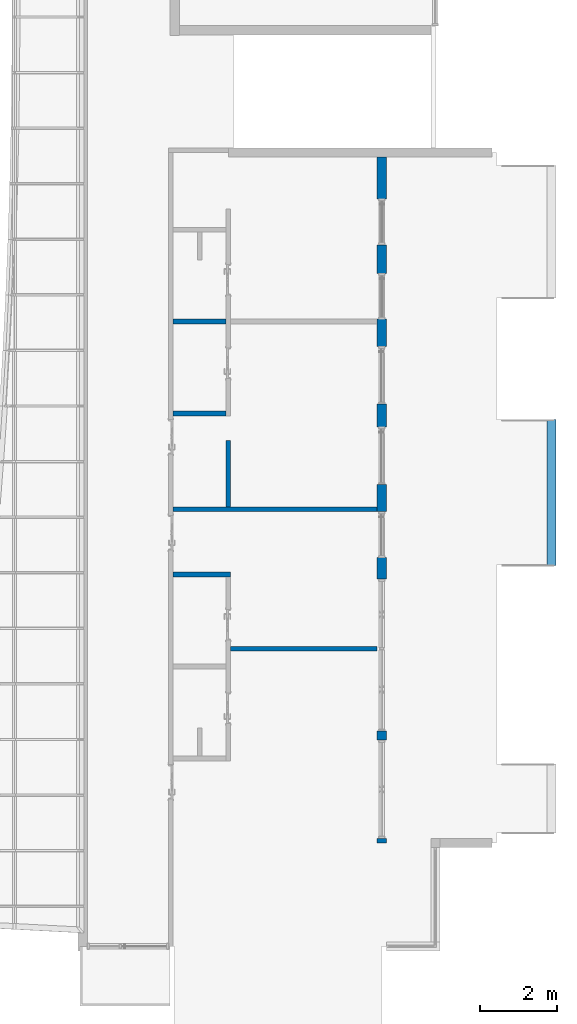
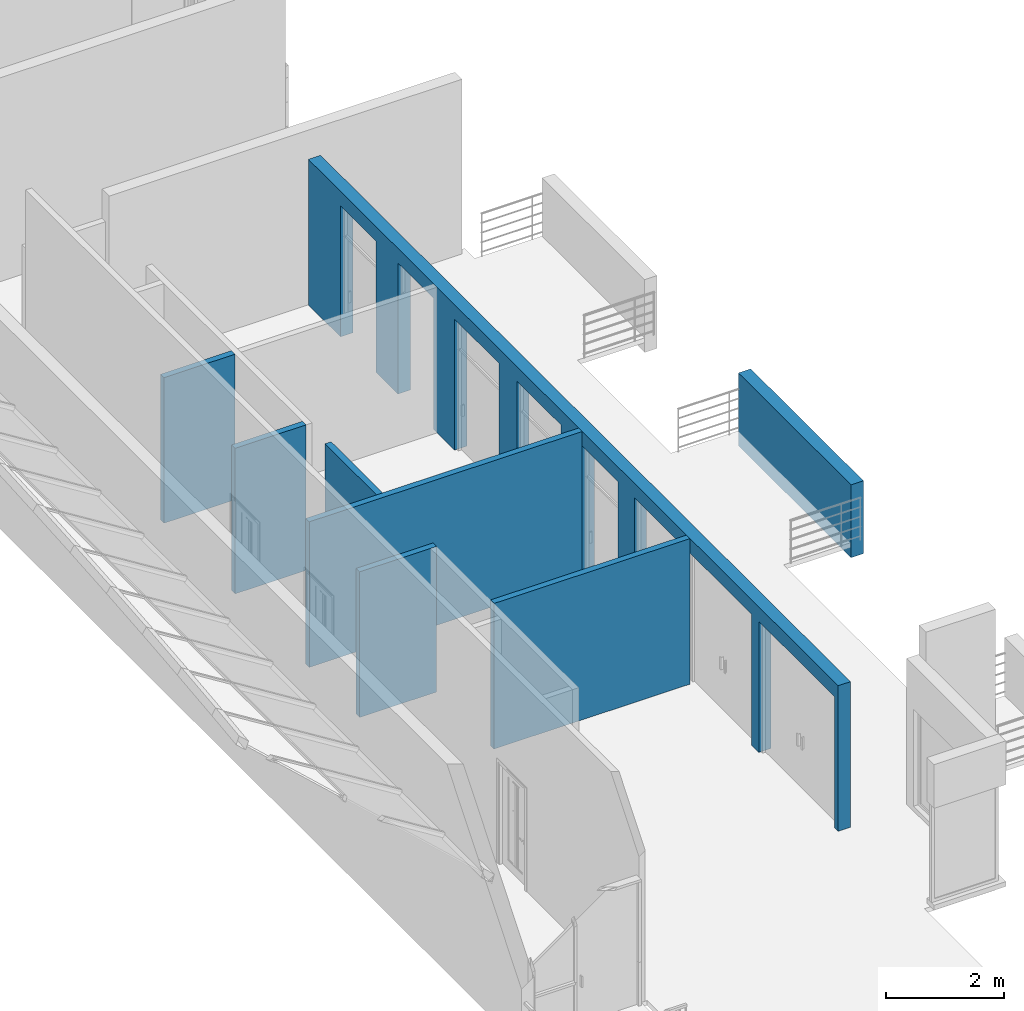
# One storey, part 22 of 33: 8 walls, 7 openings.
"""IFC2X3 building model written with IfcOpenShell, lengths in millimetres."""

import ifcopenshell
import ifcopenshell.guid

model = None  # the IFC model being written
_history = None  # IfcOwnerHistory: only IFC2X3 demands one
_inside = {}  # id of a spatial element -> (the spatial element, [elements in it])
_under = {}  # id of a project, library or spatial element -> (it, [spatial elements below it])
_declared = {}  # id of a project -> (the project, [libraries it declares])
_typed = {}  # id of a type object -> (the type object, [elements of that type])
_made_of = {}  # id of a material, layer set ... -> (it, [elements and type objects made of it])


def new_model(schema):
    """Start an empty IFC model of exactly this schema.

    Asked for "IFC4X3", IfcOpenShell would pick the latest addendum, in which some entities
    have other attributes; the version numbers below select the first issue.
    IFC2X3 requires an IfcOwnerHistory on every rooted entity: one is made here for all.
    """
    global model, _history
    if schema == "IFC4X3":
        model = ifcopenshell.file(schema_version=(4, 3, 0, 0))
    else:
        model = ifcopenshell.file(schema=schema)
    _inside.clear()
    _under.clear()
    _declared.clear()
    _typed.clear()
    _made_of.clear()
    _history = None
    if model.schema == "IFC2X3":
        org = make("IfcOrganization", Name="unknown")
        user = make(
            "IfcPersonAndOrganization",
            ThePerson=make("IfcPerson", FamilyName="unknown"),
            TheOrganization=org,
        )
        app = make(
            "IfcApplication",
            ApplicationDeveloper=org,
            Version="unknown",
            ApplicationFullName="unknown",
            ApplicationIdentifier="unknown",
        )
        _history = make(
            "IfcOwnerHistory",
            OwningUser=user,
            OwningApplication=app,
            ChangeAction="ADDED",
            CreationDate=0,
        )
    return model


def make(cls, **values):
    """One entity of the class cls with the attributes given. An attribute that is None is left unset."""
    return model.create_entity(
        cls, **{name: value for name, value in values.items() if value is not None}
    )


def entity(cls, *values):
    """Any entity or typed value of the class cls, its attributes in the order of the schema. None: left unset."""
    e = model.create_entity(cls)
    for i, value in enumerate(values):
        if value is not None:
            e[i] = value
    return e


def rooted(cls, **values):
    """An entity with a GlobalId (a new one), such as an element, a storey or a relation."""
    return make(cls, GlobalId=ifcopenshell.guid.new(), OwnerHistory=_history, **values)


def si_unit(unit_type, name, prefix=None):
    """IfcSIUnit, for example si_unit("LENGTHUNIT", "METRE", prefix="MILLI")."""
    return make("IfcSIUnit", UnitType=unit_type, Prefix=prefix, Name=name)


def converted_unit(unit_type, name, factor, base, dimensions=None, offset=None):
    """IfcConversionBasedUnit, such as the inch: factor (a typed value) times the base unit."""
    return make(
        "IfcConversionBasedUnit"
        if offset is None
        else "IfcConversionBasedUnitWithOffset",
        ConversionOffset=offset,
        Dimensions=None
        if dimensions is None
        else entity("IfcDimensionalExponents", *dimensions),
        UnitType=unit_type,
        Name=name,
        ConversionFactor=make(
            "IfcMeasureWithUnit", ValueComponent=factor, UnitComponent=base
        ),
    )


def derived_unit(unit_type, elements):
    """IfcDerivedUnit: a product of units, each with its exponent."""
    return make(
        "IfcDerivedUnit",
        Elements=[
            make("IfcDerivedUnitElement", Unit=unit, Exponent=power)
            for unit, power in elements
        ],
        UnitType=unit_type,
    )


def assignment(units):
    """IfcUnitAssignment: the units of a project."""
    return None if units is None else make("IfcUnitAssignment", Units=units)


def point(xyz):
    """IfcCartesianPoint."""
    return None if xyz is None else make("IfcCartesianPoint", Coordinates=xyz)


def direction(xyz):
    """IfcDirection."""
    return None if xyz is None else make("IfcDirection", DirectionRatios=xyz)


def frame(location, z_axis=None, x_axis=None):
    """IfcAxis2Placement3D, a coordinate frame: its origin and axes. An axis left out is left unset."""
    return make(
        "IfcAxis2Placement3D",
        Location=point(location),
        Axis=direction(z_axis),
        RefDirection=direction(x_axis),
    )


def frame_2d(location, x_axis=None):
    """IfcAxis2Placement2D, a coordinate frame in the plane: its origin and x axis."""
    return make(
        "IfcAxis2Placement2D", Location=point(location), RefDirection=direction(x_axis)
    )


def origin():
    """The frame at (0, 0, 0) with its axes left unset."""
    return frame((0.0, 0.0, 0.0))


def place(relative_to, where):
    """IfcLocalPlacement: puts the frame where relative to a parent placement (None: the world)."""
    return make(
        "IfcLocalPlacement", PlacementRelTo=relative_to, RelativePlacement=where
    )


def context(
    kind, dimensions, precision=None, world=None, true_north=None, identifier=None
):
    """IfcGeometricRepresentationContext, for example the 3D "Model" context."""
    return make(
        "IfcGeometricRepresentationContext",
        ContextIdentifier=identifier,
        ContextType=kind,
        CoordinateSpaceDimension=dimensions,
        Precision=precision,
        WorldCoordinateSystem=world,
        TrueNorth=true_north,
    )


def subcontext(parent, identifier, kind, view, scale=None):
    """IfcGeometricRepresentationSubContext, for example "Body" below "Model"."""
    return make(
        "IfcGeometricRepresentationSubContext",
        ContextIdentifier=identifier,
        ContextType=kind,
        ParentContext=parent,
        TargetScale=scale,
        TargetView=view,
    )


def project(units=None, contexts=None):
    """IfcProject with its units and contexts."""
    return rooted(
        "IfcProject",
        Name="project",
        RepresentationContexts=contexts,
        UnitsInContext=assignment(units),
    )


def spatial(cls, under=None, at=None, **own):
    """A site, building, storey or space (cls), placed at a placement, below another one or the project."""
    s = rooted(cls, ObjectPlacement=at, **own)
    if under is not None:
        _under.setdefault(under.id(), (under, []))[1].append(s)
    return s


def profile(cls, at=None, kind="AREA", **sizes):
    """A parametric profile (cls). Its sizes go by their IFC names, for example OverallWidth=200.0."""
    return make(cls, ProfileType=kind, Position=at, **sizes)


def rectangle(**sizes):
    """IfcRectangleProfileDef."""
    return profile("IfcRectangleProfileDef", **sizes)


def extrude(swept, where, along, depth):
    """IfcExtrudedAreaSolid: the profile swept, set in the frame where, extruded along a direction by depth."""
    return make(
        "IfcExtrudedAreaSolid",
        SweptArea=swept,
        Position=where,
        ExtrudedDirection=direction(along),
        Depth=depth,
    )


def shape(context_of_items, identifier, shape_type, items):
    """IfcShapeRepresentation: the items that make up one representation, for example the "Body"."""
    return make(
        "IfcShapeRepresentation",
        ContextOfItems=context_of_items,
        RepresentationIdentifier=identifier,
        RepresentationType=shape_type,
        Items=items,
    )


def material(Name=None, Category=None):
    """IfcMaterial."""
    return make("IfcMaterial", Name=Name, Category=Category)


def layer(
    of_material, thickness, ventilated=None, Name=None, Category=None, Priority=None
):
    """IfcMaterialLayer: one layer of a wall or slab, of a material (None: an air gap)."""
    return make(
        "IfcMaterialLayer",
        Material=of_material,
        LayerThickness=thickness,
        IsVentilated=ventilated,
        Name=Name,
        Category=Category,
        Priority=Priority,
    )


def layer_set(layers, Name=None):
    """IfcMaterialLayerSet."""
    return make("IfcMaterialLayerSet", MaterialLayers=layers, LayerSetName=Name)


def layer_usage(for_layer_set, set_direction, sense, offset, extent=None):
    """IfcMaterialLayerSetUsage: how a layer set lies in its element."""
    return make(
        "IfcMaterialLayerSetUsage",
        ForLayerSet=for_layer_set,
        LayerSetDirection=set_direction,
        DirectionSense=sense,
        OffsetFromReferenceLine=offset,
        ReferenceExtent=extent,
    )


def made_of(thing, what):
    """Note that an element or type object is made of a material, layer set ...; save() writes the relation."""
    if what is not None:
        _made_of.setdefault(what.id(), (what, []))[1].append(thing)
    return thing


def type_object(cls, material=None, **own):
    """A type object (cls), such as IfcWallType, which elements share."""
    return made_of(rooted(cls, **own), material)


def element(
    cls,
    number,
    at=None,
    inside=None,
    cuts=None,
    type_object=None,
    material=None,
    context=None,
    identifier="Body",
    shape_type=None,
    held_by="IfcProductDefinitionShape",
    body=None,
    shapes=None,
    **own,
):
    """One element of the class cls, such as IfcWall. Its Tag is "e" and its number.

    at: its placement. inside: the storey or other place that contains it. cuts: it is an
    opening in that element (IfcRelVoidsElement). A single representation is given by context,
    identifier, shape_type and body (its items); several are given by shapes. held_by: the class
    of the entity that holds the representations. save() writes the other relations.
    """
    e = rooted(cls, Tag="e%d" % number, ObjectPlacement=at, **own)
    if body is not None:
        shapes = [shape(context, identifier, shape_type, body)]
    if shapes is not None:
        e.Representation = make(held_by, Representations=shapes)
    if inside is not None:
        _inside.setdefault(inside.id(), (inside, []))[1].append(e)
    if cuts is not None:
        rooted(
            "IfcRelVoidsElement", RelatingBuildingElement=cuts, RelatedOpeningElement=e
        )
    if type_object is not None:
        _typed.setdefault(type_object.id(), (type_object, []))[1].append(e)
    return made_of(e, material)


def aggregate(whole, parts):
    """IfcRelAggregates: a whole, such as a stair, and the parts it consists of."""
    return rooted("IfcRelAggregates", RelatingObject=whole, RelatedObjects=parts)


def save(model, path):
    """Write the relations noted so far, then the file.

    IfcRelAggregates (storeys below a building ...), IfcRelContainedInSpatialStructure (elements
    in a storey), IfcRelDefinesByType, IfcRelAssociatesMaterial and IfcRelDeclares: one each for
    every whole, place, type object, material and project.
    """
    for whole, parts in _under.values():
        aggregate(whole, parts)
    for where, things in _inside.values():
        rooted(
            "IfcRelContainedInSpatialStructure",
            RelatedElements=things,
            RelatingStructure=where,
        )
    for kind, things in _typed.values():
        rooted("IfcRelDefinesByType", RelatedObjects=things, RelatingType=kind)
    for what, things in _made_of.values():
        rooted("IfcRelAssociatesMaterial", RelatedObjects=things, RelatingMaterial=what)
    for by, libraries in _declared.values():
        rooted("IfcRelDeclares", RelatingContext=by, RelatedDefinitions=libraries)
    model.write(path)


model = new_model("IFC2X3")

# Units and contexts
model_context = context("Model", 3, precision=0.01, world=origin(), true_north=direction((6.12303176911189e-17, 1.0)))
body_context = subcontext(model_context, "Body", "Model", "MODEL_VIEW")
ifc_project = project(units=[si_unit("LENGTHUNIT", "METRE", prefix="MILLI"), si_unit("AREAUNIT", "SQUARE_METRE"), si_unit("VOLUMEUNIT", "CUBIC_METRE"), converted_unit("PLANEANGLEUNIT", "DEGREE", entity("IfcRatioMeasure", 0.0174532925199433), si_unit("PLANEANGLEUNIT", "RADIAN"), dimensions=[0, 0, 0, 0, 0, 0, 0]), si_unit("MASSUNIT", "GRAM", prefix="KILO"), derived_unit("MASSDENSITYUNIT", [(si_unit("MASSUNIT", "GRAM", prefix="KILO"), 1), (si_unit("LENGTHUNIT", "METRE"), -3)]), si_unit("TIMEUNIT", "SECOND"), si_unit("FREQUENCYUNIT", "HERTZ"), si_unit("THERMODYNAMICTEMPERATUREUNIT", "DEGREE_CELSIUS"), derived_unit("THERMALTRANSMITTANCEUNIT", [(si_unit("MASSUNIT", "GRAM", prefix="KILO"), 1), (si_unit("THERMODYNAMICTEMPERATUREUNIT", "KELVIN"), -1), (si_unit("TIMEUNIT", "SECOND"), -3)]), derived_unit("VOLUMETRICFLOWRATEUNIT", [(si_unit("LENGTHUNIT", "METRE"), 3), (si_unit("TIMEUNIT", "SECOND"), -1)]), si_unit("ELECTRICCURRENTUNIT", "AMPERE"), si_unit("ELECTRICVOLTAGEUNIT", "VOLT"), si_unit("POWERUNIT", "WATT"), si_unit("FORCEUNIT", "NEWTON", prefix="KILO"), si_unit("ILLUMINANCEUNIT", "LUX"), si_unit("LUMINOUSFLUXUNIT", "LUMEN"), si_unit("LUMINOUSINTENSITYUNIT", "CANDELA"), derived_unit("USERDEFINED", [(si_unit("MASSUNIT", "GRAM", prefix="KILO"), -1), (si_unit("LENGTHUNIT", "METRE"), -2), (si_unit("TIMEUNIT", "SECOND"), 3), (si_unit("LUMINOUSFLUXUNIT", "LUMEN"), 1)]), derived_unit("LINEARVELOCITYUNIT", [(si_unit("LENGTHUNIT", "METRE"), 1), (si_unit("TIMEUNIT", "SECOND"), -1)]), si_unit("PRESSUREUNIT", "PASCAL"), derived_unit("USERDEFINED", [(si_unit("LENGTHUNIT", "METRE"), -2), (si_unit("MASSUNIT", "GRAM", prefix="KILO"), 1), (si_unit("TIMEUNIT", "SECOND"), -2)])], contexts=[model_context])

# Site, building, storey
site_placement = place(None, origin())
site = spatial("IfcSite", under=ifc_project, at=site_placement, Name="表面", CompositionType="ELEMENT")
building_placement = place(site_placement, origin())
building = spatial("IfcBuilding", under=site, at=building_placement, CompositionType="ELEMENT")
storey_placement = place(building_placement, frame((0.0, 0.0, 6000.0)))
storey = spatial("IfcBuildingStorey", under=building, at=storey_placement, Name="3F", CompositionType="ELEMENT", Elevation=6000.00000000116)

# Wall, openings
ifc_material_1 = material(Name="白色涂料")
ifc_layer_1 = layer(ifc_material_1, 10.0)
ifc_material_2 = material(Name="默认墙")
ifc_layer_2 = layer(ifc_material_2, 220.0)
ifc_layer_3 = layer(ifc_material_1, 10.0)
ifc_layer_set_1 = layer_set([ifc_layer_1, ifc_layer_2, ifc_layer_3], Name="基本墙:粉刷墙240")
ifc_layer_usage_1 = layer_usage(ifc_layer_set_1, "AXIS2", "NEGATIVE", 120.0)
wall_type_1 = type_object("IfcWallType", Name="基本墙:粉刷墙240", PredefinedType="STANDARD", material=ifc_layer_set_1)
wall_1_placement = place(storey_placement, frame((-6630.24991264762, -8827.84591297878, 0.0), z_axis=(0.0, 0.0, 1.0), x_axis=(0.0, -1.0, 0.0)))
wall_1 = element("IfcWallStandardCase", 1, at=wall_1_placement, inside=storey, type_object=wall_type_1, material=ifc_layer_usage_1, Name="基本墙:粉刷墙240", ObjectType="基本墙:粉刷墙240", context=body_context, shape_type="SweptSolid", body=[
    extrude(rectangle(XDim=17889.0225136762, YDim=240.0, at=frame_2d((8944.51125683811, -1.4210854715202e-13), x_axis=(-1.0, 0.0))), origin(), (0.0, 0.0, 1.0), 3000.0),
])
opening_1_placement = place(wall_1_placement, origin())
element("IfcOpeningElement", 2, at=opening_1_placement, cuts=wall_1, Name="基本墙:粉刷墙240", ObjectType="Opening", context=body_context, shape_type="SweptSolid", body=[
    extrude(rectangle(XDim=2700.0, YDim=1200.0, at=frame_2d((0.0, 5.6843418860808e-13), x_axis=(0.0, 1.0))), frame((3629.02251367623, -272.4, 1350.0), z_axis=(0.0, 1.0, 0.0), x_axis=(-1.0, 0.0, 0.0)), (0.0, 0.0, 1.0), 544.8),
])
opening_2_placement = place(wall_1_placement, origin())
element("IfcOpeningElement", 3, at=opening_2_placement, cuts=wall_1, Name="基本墙:粉刷墙240", ObjectType="Opening", context=body_context, shape_type="SweptSolid", body=[
    extrude(rectangle(XDim=2700.0, YDim=1500.0, at=frame_2d((-5.6843418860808e-13, 0.0), x_axis=(1.0, 0.0))), frame((5689.02251367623, -272.4, 1350.0), z_axis=(0.0, 1.0, 0.0), x_axis=(0.0, 0.0, 1.0)), (0.0, 0.0, 1.0), 544.8),
])
opening_3_placement = place(wall_1_placement, origin())
element("IfcOpeningElement", 4, at=opening_3_placement, cuts=wall_1, Name="基本墙:粉刷墙240", ObjectType="Opening", context=body_context, shape_type="SweptSolid", body=[
    extrude(rectangle(XDim=2700.0, YDim=1200.0, at=frame_2d((-5.6843418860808e-13, 0.0), x_axis=(1.0, 0.0))), frame((9849.02251367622, -272.400000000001, 1350.0), z_axis=(0.0, 1.0, 0.0), x_axis=(0.0, 0.0, 1.0)), (0.0, 0.0, 1.0), 544.8),
])
opening_4_placement = place(wall_1_placement, origin())
element("IfcOpeningElement", 5, at=opening_4_placement, cuts=wall_1, Name="基本墙:粉刷墙240", ObjectType="Opening", context=body_context, shape_type="SweptSolid", body=[
    extrude(rectangle(XDim=2700.0, YDim=1200.0, at=frame_2d((0.0, 5.6843418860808e-13), x_axis=(0.0, 1.0))), frame((1689.02251367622, -272.399999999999, 1350.0), z_axis=(0.0, 1.0, 0.0), x_axis=(-1.0, 0.0, 0.0)), (0.0, 0.0, 1.0), 544.8),
])
opening_5_placement = place(wall_1_placement, origin())
element("IfcOpeningElement", 6, at=opening_5_placement, cuts=wall_1, Name="基本墙:粉刷墙240", ObjectType="Opening", context=body_context, shape_type="SweptSolid", body=[
    extrude(rectangle(XDim=2700.0, YDim=1500.0, at=frame_2d((-5.6843418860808e-13, 0.0), x_axis=(1.0, 0.0))), frame((7789.02251367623, -272.4, 1350.0), z_axis=(0.0, 1.0, 0.0), x_axis=(0.0, 0.0, 1.0)), (0.0, 0.0, 1.0), 544.8),
])
opening_6_placement = place(wall_1_placement, origin())
element("IfcOpeningElement", 7, at=opening_6_placement, cuts=wall_1, Name="基本墙:粉刷墙240", ObjectType="Opening", context=body_context, shape_type="SweptSolid", body=[
    extrude(rectangle(XDim=2700.0, YDim=2560.00000000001, at=frame_2d((-5.6843418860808e-13, -2.1600499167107e-12), x_axis=(1.0, 0.0))), frame((16489.0225136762, -272.4, 1350.0), z_axis=(0.0, 1.0, 0.0), x_axis=(0.0, 0.0, 1.0)), (0.0, 0.0, 1.0), 544.8),
])
opening_7_placement = place(wall_1_placement, origin())
element("IfcOpeningElement", 8, at=opening_7_placement, cuts=wall_1, Name="基本墙:粉刷墙240", ObjectType="Opening", context=body_context, shape_type="SweptSolid", body=[
    extrude(rectangle(XDim=2700.0, YDim=3960.00000000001, at=frame_2d((-5.6843418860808e-13, 2.1600499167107e-12), x_axis=(1.0, 0.0))), frame((12989.0225136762, -272.4, 1350.0), z_axis=(0.0, 1.0, 0.0), x_axis=(0.0, 0.0, 1.0)), (0.0, 0.0, 1.0), 544.8),
])

# Walls
ifc_layer_usage_2 = layer_usage(ifc_layer_set_1, "AXIS2", "NEGATIVE", 120.0)
wall_2_placement = place(storey_placement, frame((-2200.24991264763, -19480.7457415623, -300.0), z_axis=(0.0, 0.0, 1.0), x_axis=(0.0, 1.0, 0.0)))
element("IfcWallStandardCase", 9, at=wall_2_placement, inside=storey, type_object=wall_type_1, material=ifc_layer_usage_2, Name="基本墙:粉刷墙240", ObjectType="基本墙:粉刷墙240", context=body_context, shape_type="SweptSolid", body=[
    extrude(rectangle(XDim=3805.00000000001, YDim=240.0, at=frame_2d((1902.5, 0.0), x_axis=(-1.0, 0.0))), origin(), (0.0, 0.0, 1.0), 1500.0),
])
ifc_layer_4 = layer(ifc_material_1, 10.0)
ifc_layer_5 = layer(ifc_material_2, 100.0)
ifc_layer_6 = layer(ifc_material_1, 10.0)
ifc_layer_set_2 = layer_set([ifc_layer_4, ifc_layer_5, ifc_layer_6], Name="基本墙:粉刷墙120")
ifc_layer_usage_3 = layer_usage(ifc_layer_set_2, "AXIS2", "NEGATIVE", 60.0)
wall_type_2 = type_object("IfcWallType", Name="基本墙:粉刷墙120", PredefinedType="STANDARD", material=ifc_layer_set_2)
wall_3_placement = place(storey_placement, frame((-10690.2499126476, -15516.868426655, 0.0), z_axis=(0.0, 0.0, 1.0), x_axis=(-1.0, 0.0, 0.0)))
element("IfcWallStandardCase", 10, at=wall_3_placement, inside=storey, type_object=wall_type_2, material=ifc_layer_usage_3, Name="基本墙:粉刷墙120", ObjectType="基本墙:粉刷墙120", context=body_context, shape_type="SweptSolid", body=[
    extrude(rectangle(XDim=1380.00000000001, YDim=119.999999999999, at=frame_2d((690.000000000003, -1.74082970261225e-13), x_axis=(-1.0, 0.0))), origin(), (0.0, 0.0, 1.0), 3000.0),
])
ifc_layer_usage_4 = layer_usage(ifc_layer_set_2, "AXIS2", "NEGATIVE", 60.0)
wall_4_placement = place(storey_placement, frame((-10690.2499126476, -13116.868426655, 0.0), z_axis=(0.0, 0.0, 1.0), x_axis=(-1.0, 0.0, 0.0)))
element("IfcWallStandardCase", 11, at=wall_4_placement, inside=storey, type_object=wall_type_2, material=ifc_layer_usage_4, Name="基本墙:粉刷墙120", ObjectType="基本墙:粉刷墙120", context=body_context, shape_type="SweptSolid", body=[
    extrude(rectangle(XDim=1380.00000000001, YDim=119.999999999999, at=frame_2d((690.000000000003, -1.74082970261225e-13), x_axis=(-1.0, 0.0))), origin(), (0.0, 0.0, 1.0), 3000.0),
])
ifc_layer_usage_5 = layer_usage(ifc_layer_set_2, "AXIS2", "NEGATIVE", 60.0)
wall_5_placement = place(storey_placement, frame((-12070.2499126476, -18016.868426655, 0.0)))
element("IfcWallStandardCase", 12, at=wall_5_placement, inside=storey, type_object=wall_type_2, material=ifc_layer_usage_5, Name="基本墙:粉刷墙120", ObjectType="基本墙:粉刷墙120", context=body_context, shape_type="SweptSolid", body=[
    extrude(rectangle(XDim=5320.0, YDim=119.999999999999, at=frame_2d((2660.0, -2.8421709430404e-13), x_axis=(-1.0, 0.0))), origin(), (0.0, 0.0, 1.0), 3000.0),
])
ifc_layer_usage_6 = layer_usage(ifc_layer_set_2, "AXIS2", "NEGATIVE", 60.0)
wall_6_placement = place(storey_placement, frame((-10630.2499126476, -17956.868426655, 0.0), z_axis=(0.0, 0.0, 1.0), x_axis=(0.0, 1.0, 0.0)))
element("IfcWallStandardCase", 13, at=wall_6_placement, inside=storey, type_object=wall_type_2, material=ifc_layer_usage_6, Name="基本墙:粉刷墙120", ObjectType="基本墙:粉刷墙120", context=body_context, shape_type="SweptSolid", body=[
    extrude(rectangle(XDim=1740.0, YDim=119.999999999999, at=frame_2d((870.0, -2.1316282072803e-14), x_axis=(-1.0, 0.0))), origin(), (0.0, 0.0, 1.0), 3000.0),
])
ifc_layer_usage_7 = layer_usage(ifc_layer_set_2, "AXIS2", "NEGATIVE", 60.0)
wall_7_placement = place(storey_placement, frame((-10570.2499126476, -19716.868426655, 0.0), z_axis=(0.0, 0.0, 1.0), x_axis=(-1.0, 0.0, 0.0)))
element("IfcWallStandardCase", 14, at=wall_7_placement, inside=storey, type_object=wall_type_2, material=ifc_layer_usage_7, Name="基本墙:粉刷墙120", ObjectType="基本墙:粉刷墙120", context=body_context, shape_type="SweptSolid", body=[
    extrude(rectangle(XDim=1500.0, YDim=119.999999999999, at=frame_2d((750.000000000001, 0.0), x_axis=(-1.0, 0.0))), origin(), (0.0, 0.0, 1.0), 3000.0),
])
ifc_layer_usage_8 = layer_usage(ifc_layer_set_2, "AXIS2", "NEGATIVE", 60.0)
wall_8_placement = place(storey_placement, frame((-10570.2499126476, -21655.5881583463, 0.0)))
element("IfcWallStandardCase", 15, at=wall_8_placement, inside=storey, type_object=wall_type_2, material=ifc_layer_usage_8, Name="基本墙:粉刷墙120", ObjectType="基本墙:粉刷墙120", context=body_context, shape_type="SweptSolid", body=[
    extrude(rectangle(XDim=3820.0, YDim=119.999999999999, at=frame_2d((1910.0, -2.91322521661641e-13), x_axis=(-1.0, 0.0))), origin(), (0.0, 0.0, 1.0), 3000.0),
])

save(model, "model.ifc")
